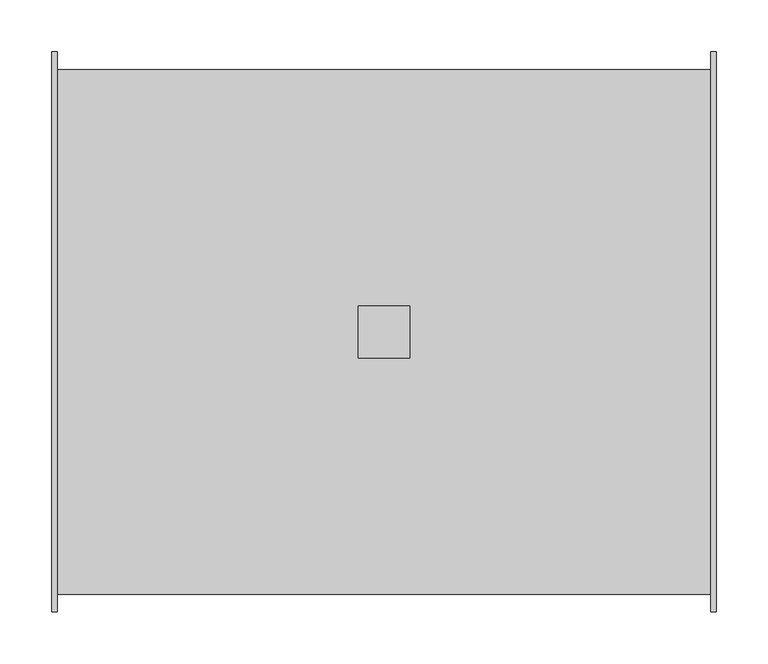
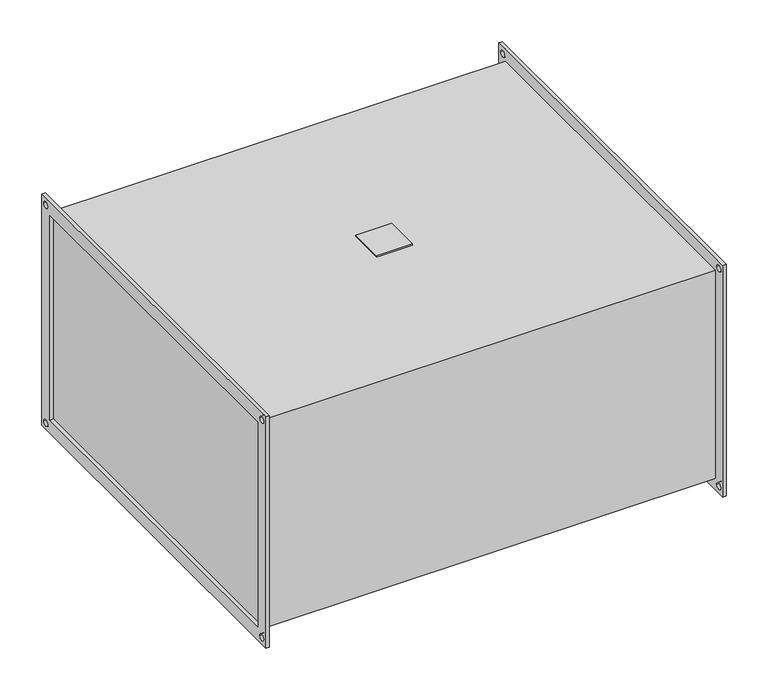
"""IFC4 building model written with IfcOpenShell, lengths in millimetres: damper geometry, KORF_Фильтр_Карманный_FKR : FKR 50-30  EU5."""

import ifcopenshell
import ifcopenshell.guid

model = None  # the IFC model being written
_history = None  # IfcOwnerHistory: only IFC2X3 demands one
_inside = {}  # id of a spatial element -> (the spatial element, [elements in it])
_under = {}  # id of a project, library or spatial element -> (it, [spatial elements below it])
_declared = {}  # id of a project -> (the project, [libraries it declares])
_typed = {}  # id of a type object -> (the type object, [elements of that type])
_made_of = {}  # id of a material, layer set ... -> (it, [elements and type objects made of it])


def new_model(schema):
    """Start an empty IFC model of exactly this schema.

    Asked for "IFC4X3", IfcOpenShell would pick the latest addendum, in which some entities
    have other attributes; the version numbers below select the first issue.
    IFC2X3 requires an IfcOwnerHistory on every rooted entity: one is made here for all.
    """
    global model, _history
    if schema == "IFC4X3":
        model = ifcopenshell.file(schema_version=(4, 3, 0, 0))
    else:
        model = ifcopenshell.file(schema=schema)
    _inside.clear()
    _under.clear()
    _declared.clear()
    _typed.clear()
    _made_of.clear()
    _history = None
    if model.schema == "IFC2X3":
        org = make("IfcOrganization", Name="unknown")
        user = make(
            "IfcPersonAndOrganization",
            ThePerson=make("IfcPerson", FamilyName="unknown"),
            TheOrganization=org,
        )
        app = make(
            "IfcApplication",
            ApplicationDeveloper=org,
            Version="unknown",
            ApplicationFullName="unknown",
            ApplicationIdentifier="unknown",
        )
        _history = make(
            "IfcOwnerHistory",
            OwningUser=user,
            OwningApplication=app,
            ChangeAction="ADDED",
            CreationDate=0,
        )
    return model


def make(cls, **values):
    """One entity of the class cls with the attributes given. An attribute that is None is left unset."""
    return model.create_entity(
        cls, **{name: value for name, value in values.items() if value is not None}
    )


def rooted(cls, **values):
    """An entity with a GlobalId (a new one), such as an element, a storey or a relation."""
    return make(cls, GlobalId=ifcopenshell.guid.new(), OwnerHistory=_history, **values)


def si_unit(unit_type, name, prefix=None):
    """IfcSIUnit, for example si_unit("LENGTHUNIT", "METRE", prefix="MILLI")."""
    return make("IfcSIUnit", UnitType=unit_type, Prefix=prefix, Name=name)


def assignment(units):
    """IfcUnitAssignment: the units of a project."""
    return None if units is None else make("IfcUnitAssignment", Units=units)


def point(xyz):
    """IfcCartesianPoint."""
    return None if xyz is None else make("IfcCartesianPoint", Coordinates=xyz)


def direction(xyz):
    """IfcDirection."""
    return None if xyz is None else make("IfcDirection", DirectionRatios=xyz)


def frame(location, z_axis=None, x_axis=None):
    """IfcAxis2Placement3D, a coordinate frame: its origin and axes. An axis left out is left unset."""
    return make(
        "IfcAxis2Placement3D",
        Location=point(location),
        Axis=direction(z_axis),
        RefDirection=direction(x_axis),
    )


def frame_2d(location, x_axis=None):
    """IfcAxis2Placement2D, a coordinate frame in the plane: its origin and x axis."""
    return make(
        "IfcAxis2Placement2D", Location=point(location), RefDirection=direction(x_axis)
    )


def origin():
    """The frame at (0, 0, 0) with its axes left unset."""
    return frame((0.0, 0.0, 0.0))


def place(relative_to, where):
    """IfcLocalPlacement: puts the frame where relative to a parent placement (None: the world)."""
    return make(
        "IfcLocalPlacement", PlacementRelTo=relative_to, RelativePlacement=where
    )


def context(
    kind, dimensions, precision=None, world=None, true_north=None, identifier=None
):
    """IfcGeometricRepresentationContext, for example the 3D "Model" context."""
    return make(
        "IfcGeometricRepresentationContext",
        ContextIdentifier=identifier,
        ContextType=kind,
        CoordinateSpaceDimension=dimensions,
        Precision=precision,
        WorldCoordinateSystem=world,
        TrueNorth=true_north,
    )


def project(units=None, contexts=None):
    """IfcProject with its units and contexts."""
    return rooted(
        "IfcProject",
        Name="project",
        RepresentationContexts=contexts,
        UnitsInContext=assignment(units),
    )


def spatial(cls, under=None, at=None, **own):
    """A site, building, storey or space (cls), placed at a placement, below another one or the project."""
    s = rooted(cls, ObjectPlacement=at, **own)
    if under is not None:
        _under.setdefault(under.id(), (under, []))[1].append(s)
    return s


def polyline(points):
    """IfcPolyline through the points."""
    return make("IfcPolyline", Points=[point(p) for p in points])


def circle_curve(where, radius):
    """IfcCircle in the frame where."""
    return make("IfcCircle", Position=where, Radius=radius)


def trimmed(basis, trim1, trim2, sense, master):
    """IfcTrimmedCurve: the piece of a basis curve between two trims."""
    return make(
        "IfcTrimmedCurve",
        BasisCurve=basis,
        Trim1=trim1,
        Trim2=trim2,
        SenseAgreement=sense,
        MasterRepresentation=master,
    )


def segment(curve, same_sense, transition):
    """IfcCompositeCurveSegment."""
    return make(
        "IfcCompositeCurveSegment",
        Transition=transition,
        SameSense=same_sense,
        ParentCurve=curve,
    )


def composite_curve(segments, self_intersect=None):
    """IfcCompositeCurve: segments joined end to end."""
    return make("IfcCompositeCurve", Segments=segments, SelfIntersect=self_intersect)


def outline(outer, holes=None, kind="AREA"):
    """IfcArbitraryClosedProfileDef: a profile drawn as a closed curve; with holes, ...WithVoids."""
    if holes is None:
        return make("IfcArbitraryClosedProfileDef", ProfileType=kind, OuterCurve=outer)
    return make(
        "IfcArbitraryProfileDefWithVoids",
        ProfileType=kind,
        OuterCurve=outer,
        InnerCurves=holes,
    )


def extrude(swept, where, along, depth):
    """IfcExtrudedAreaSolid: the profile swept, set in the frame where, extruded along a direction by depth."""
    return make(
        "IfcExtrudedAreaSolid",
        SweptArea=swept,
        Position=where,
        ExtrudedDirection=direction(along),
        Depth=depth,
    )


def shape(context_of_items, identifier, shape_type, items):
    """IfcShapeRepresentation: the items that make up one representation, for example the "Body"."""
    return make(
        "IfcShapeRepresentation",
        ContextOfItems=context_of_items,
        RepresentationIdentifier=identifier,
        RepresentationType=shape_type,
        Items=items,
    )


def source(mapping_origin, context_of_items, identifier, shape_type, items):
    """IfcRepresentationMap: a shape defined once, which mapped items show again and again."""
    return make(
        "IfcRepresentationMap",
        MappingOrigin=mapping_origin,
        MappedRepresentation=shape(context_of_items, identifier, shape_type, items),
    )


def transform(
    local_origin,
    x_axis=None,
    y_axis=None,
    z_axis=None,
    scale=None,
    scale2=None,
    scale3=None,
    uniform=True,
):
    """IfcCartesianTransformationOperator3D, or its non-uniform kind. x_axis, y_axis, z_axis: its Axis1, 2, 3."""
    if uniform:
        return make(
            "IfcCartesianTransformationOperator3D",
            Axis1=direction(x_axis),
            Axis2=direction(y_axis),
            LocalOrigin=point(local_origin),
            Scale=scale,
            Axis3=direction(z_axis),
        )
    return make(
        "IfcCartesianTransformationOperator3DnonUniform",
        Axis1=direction(x_axis),
        Axis2=direction(y_axis),
        LocalOrigin=point(local_origin),
        Scale=scale,
        Axis3=direction(z_axis),
        Scale2=scale2,
        Scale3=scale3,
    )


def mapped(mapping_source, mapping_target):
    """IfcMappedItem: shows the shape of a source again, moved by a transform."""
    return make(
        "IfcMappedItem", MappingSource=mapping_source, MappingTarget=mapping_target
    )


def made_of(thing, what):
    """Note that an element or type object is made of a material, layer set ...; save() writes the relation."""
    if what is not None:
        _made_of.setdefault(what.id(), (what, []))[1].append(thing)
    return thing


def element(
    cls,
    number,
    at=None,
    inside=None,
    cuts=None,
    type_object=None,
    material=None,
    context=None,
    identifier="Body",
    shape_type=None,
    held_by="IfcProductDefinitionShape",
    body=None,
    shapes=None,
    **own,
):
    """One element of the class cls, such as IfcWall. Its Tag is "e" and its number.

    at: its placement. inside: the storey or other place that contains it. cuts: it is an
    opening in that element (IfcRelVoidsElement). A single representation is given by context,
    identifier, shape_type and body (its items); several are given by shapes. held_by: the class
    of the entity that holds the representations. save() writes the other relations.
    """
    e = rooted(cls, Tag="e%d" % number, ObjectPlacement=at, **own)
    if body is not None:
        shapes = [shape(context, identifier, shape_type, body)]
    if shapes is not None:
        e.Representation = make(held_by, Representations=shapes)
    if inside is not None:
        _inside.setdefault(inside.id(), (inside, []))[1].append(e)
    if cuts is not None:
        rooted(
            "IfcRelVoidsElement", RelatingBuildingElement=cuts, RelatedOpeningElement=e
        )
    if type_object is not None:
        _typed.setdefault(type_object.id(), (type_object, []))[1].append(e)
    return made_of(e, material)


def aggregate(whole, parts):
    """IfcRelAggregates: a whole, such as a stair, and the parts it consists of."""
    return rooted("IfcRelAggregates", RelatingObject=whole, RelatedObjects=parts)


def save(model, path):
    """Write the relations noted so far, then the file.

    IfcRelAggregates (storeys below a building ...), IfcRelContainedInSpatialStructure (elements
    in a storey), IfcRelDefinesByType, IfcRelAssociatesMaterial and IfcRelDeclares: one each for
    every whole, place, type object, material and project.
    """
    for whole, parts in _under.values():
        aggregate(whole, parts)
    for where, things in _inside.values():
        rooted(
            "IfcRelContainedInSpatialStructure",
            RelatedElements=things,
            RelatingStructure=where,
        )
    for kind, things in _typed.values():
        rooted("IfcRelDefinesByType", RelatedObjects=things, RelatingType=kind)
    for what, things in _made_of.values():
        rooted("IfcRelAssociatesMaterial", RelatedObjects=things, RelatingMaterial=what)
    for by, libraries in _declared.values():
        rooted("IfcRelDeclares", RelatingContext=by, RelatedDefinitions=libraries)
    model.write(path)


def damper_9494ee7d(model_context):
    return source(origin(), model_context, "Body", "SweptSolid", [
        extrude(outline(polyline([(345.0, 25.0), (345.0, -25.0), (295.0, -25.0), (295.0, 25.0), (345.0, 25.0)])), frame((0.0, 0.0, 153.0), z_axis=(0.0, 0.0, 1.0), x_axis=(1.0, 0.0, 0.0)), (0.0, 0.0, 1.0), 2.0),
        extrude(outline(polyline([(-270.0, 170.0), (270.0, 170.0), (270.0, -170.0), (-270.0, -170.0), (-270.0, 170.0)]), holes=[polyline([(-250.0, 150.0), (-250.0, -150.0), (250.0, -150.0), (250.0, 150.0), (-250.0, 150.0)]), composite_curve([segment(trimmed(circle_curve(frame_2d((260.0, 160.0)), 4.5), [point((255.5, 160.0))], [point((264.5, 160.0))], True, "CARTESIAN"), True, "CONTINUOUS"), segment(trimmed(circle_curve(frame_2d((260.0, 160.0)), 4.5), [point((264.5, 160.0))], [point((255.5, 160.0))], True, "CARTESIAN"), True, "CONTINUOUS")], self_intersect=False), composite_curve([segment(trimmed(circle_curve(frame_2d((-260.0, 160.0)), 4.5), [point((-264.5, 160.0))], [point((-255.5, 160.0))], True, "CARTESIAN"), True, "CONTINUOUS"), segment(trimmed(circle_curve(frame_2d((-260.0, 160.0)), 4.5), [point((-255.5, 160.0))], [point((-264.5, 160.0))], True, "CARTESIAN"), True, "CONTINUOUS")], self_intersect=False), composite_curve([segment(trimmed(circle_curve(frame_2d((-260.0, -160.0)), 4.5), [point((-264.5, -160.0))], [point((-255.5, -160.0))], True, "CARTESIAN"), True, "CONTINUOUS"), segment(trimmed(circle_curve(frame_2d((-260.0, -160.0)), 4.5), [point((-255.5, -160.0))], [point((-264.5, -160.0))], True, "CARTESIAN"), True, "CONTINUOUS")], self_intersect=False), composite_curve([segment(trimmed(circle_curve(frame_2d((260.0, -160.0)), 4.5), [point((255.5, -160.0))], [point((264.5, -160.0))], True, "CARTESIAN"), True, "CONTINUOUS"), segment(trimmed(circle_curve(frame_2d((260.0, -160.0)), 4.5), [point((264.5, -160.0))], [point((255.5, -160.0))], True, "CARTESIAN"), True, "CONTINUOUS")], self_intersect=False)]), frame((635.0, 0.0, 0.0), z_axis=(1.0, 0.0, 0.0), x_axis=(0.0, 1.0, 0.0)), (0.0, 0.0, 1.0), 5.0),
        extrude(outline(polyline([(-270.0, 170.0), (270.0, 170.0), (270.0, -170.0), (-270.0, -170.0), (-270.0, 170.0)]), holes=[polyline([(-250.0, 150.0), (-250.0, -150.0), (250.0, -150.0), (250.0, 150.0), (-250.0, 150.0)]), composite_curve([segment(trimmed(circle_curve(frame_2d((260.0, 160.0)), 4.5), [point((255.5, 160.0))], [point((264.5, 160.0))], True, "CARTESIAN"), True, "CONTINUOUS"), segment(trimmed(circle_curve(frame_2d((260.0, 160.0)), 4.5), [point((264.5, 160.0))], [point((255.5, 160.0))], True, "CARTESIAN"), True, "CONTINUOUS")], self_intersect=False), composite_curve([segment(trimmed(circle_curve(frame_2d((-260.0, 160.0)), 4.5), [point((-264.5, 160.0))], [point((-255.5, 160.0))], True, "CARTESIAN"), True, "CONTINUOUS"), segment(trimmed(circle_curve(frame_2d((-260.0, 160.0)), 4.5), [point((-255.5, 160.0))], [point((-264.5, 160.0))], True, "CARTESIAN"), True, "CONTINUOUS")], self_intersect=False), composite_curve([segment(trimmed(circle_curve(frame_2d((-260.0, -160.0)), 4.5), [point((-264.5, -160.0))], [point((-255.5, -160.0))], True, "CARTESIAN"), True, "CONTINUOUS"), segment(trimmed(circle_curve(frame_2d((-260.0, -160.0)), 4.5), [point((-255.5, -160.0))], [point((-264.5, -160.0))], True, "CARTESIAN"), True, "CONTINUOUS")], self_intersect=False), composite_curve([segment(trimmed(circle_curve(frame_2d((260.0, -160.0)), 4.5), [point((255.5, -160.0))], [point((264.5, -160.0))], True, "CARTESIAN"), True, "CONTINUOUS"), segment(trimmed(circle_curve(frame_2d((260.0, -160.0)), 4.5), [point((264.5, -160.0))], [point((255.5, -160.0))], True, "CARTESIAN"), True, "CONTINUOUS")], self_intersect=False)]), frame((0.0, 0.0, 0.0), z_axis=(1.0, 0.0, 0.0), x_axis=(0.0, 1.0, 0.0)), (0.0, 0.0, 1.0), 5.0),
        extrude(outline(polyline([(635.0, 253.0), (635.0, -253.0), (5.0, -253.0), (5.0, 253.0), (635.0, 253.0)])), frame((0.0, 0.0, -153.0), z_axis=(0.0, 0.0, 1.0), x_axis=(1.0, 0.0, 0.0)), (0.0, 0.0, 1.0), 306.0),
    ])


if __name__ == "__main__":
    model = new_model("IFC4")
    model_context = context("Model", 3, world=origin())
    ifc_project = project(units=[si_unit("LENGTHUNIT", "METRE", prefix="MILLI")], contexts=[model_context])
    site = spatial("IfcSite", under=ifc_project)
    building = spatial("IfcBuilding", under=site)
    placement = place(None, origin())
    damper_shape = damper_9494ee7d(model_context)
    element("IfcDamper", 1, ObjectType="KORF_Фильтр_Карманный_FKR : FKR 50-30  EU5", at=placement, inside=building, context=model_context, shape_type="MappedRepresentation", body=[
        mapped(damper_shape, transform((0.0, 0.0, 0.0), x_axis=(1.0, 0.0, 0.0), y_axis=(0.0, 1.0, 0.0), z_axis=(0.0, 0.0, 1.0))),
    ])
    save(model, "model.ifc")
